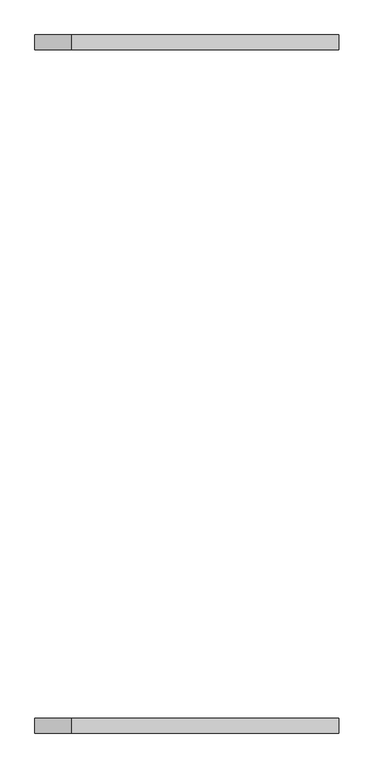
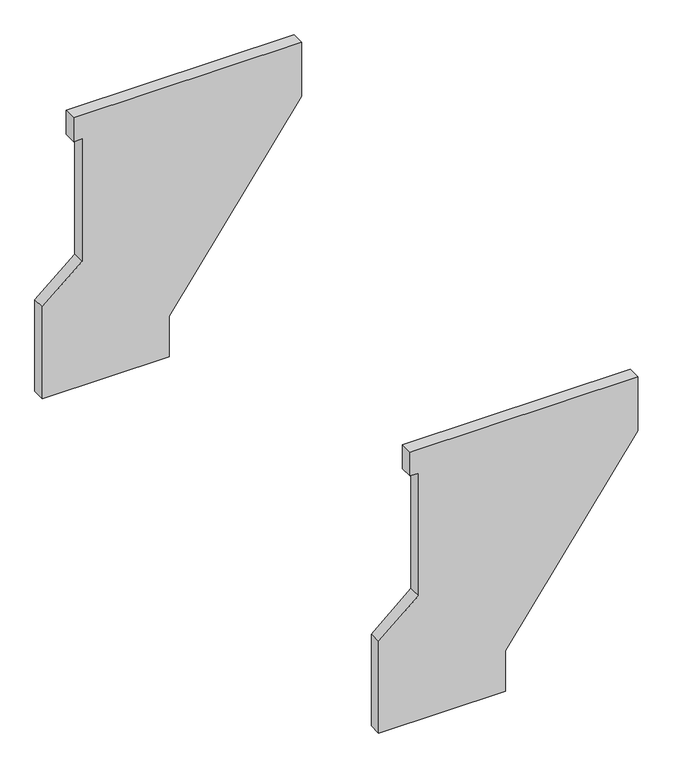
"""IFC4 building model written with IfcOpenShell, lengths in millimetres: proxy geometry, 날개벽 2 : 날개벽 2."""

from ifc_helpers import new_model, si_unit, frame, origin, place, context, project, spatial, polyline, outline, extrude, source, transform, mapped, element, save


def generic_models_ce1fa7ab(model_context):
    return source(origin(), model_context, "Body", "SweptSolid", [
        extrude(outline(polyline([(15030.0, 147119.633441), (15030.0, 139119.633441), (14150.0, 139119.633441), (14150.0, 139419.633441), (9600.0, 139419.633441), (8400.0, 138019.633441), (5000.0, 138019.633441), (5000.0, 142469.633441), (6500.0, 142469.633441), (13030.0, 147119.633441), (15030.0, 147119.633441)])), frame((0.0, 10448.8136521, 0.0), z_axis=(0.0, 1.0, 0.0), x_axis=(0.0, 0.0, 1.0)), (0.0, 0.0, 1.0), 450.0),
        extrude(outline(polyline([(8400.0, 138019.633441), (5000.0, 138019.633441), (5000.0, 142469.633441), (6500.0, 142469.633441), (13030.0, 147119.633441), (15030.0, 147119.633441), (15030.0, 139119.633441), (14150.0, 139119.633441), (14150.0, 139419.633441), (9600.0, 139419.633441), (8400.0, 138019.633441)])), frame((0.0, -10001.1863479, 0.0), z_axis=(0.0, 1.0, 0.0), x_axis=(0.0, 0.0, 1.0)), (0.0, 0.0, 1.0), 450.0),
    ])


if __name__ == "__main__":
    model = new_model("IFC4")
    model_context = context("Model", 3, world=origin())
    ifc_project = project(units=[si_unit("LENGTHUNIT", "METRE", prefix="MILLI")], contexts=[model_context])
    site = spatial("IfcSite", under=ifc_project)
    building = spatial("IfcBuilding", under=site)
    placement = place(None, origin())
    generic_models_shape = generic_models_ce1fa7ab(model_context)
    element("IfcBuildingElementProxy", 1, Name="날개벽 2 : 날개벽 2", ObjectType="날개벽 2 : 날개벽 2", at=placement, inside=building, context=model_context, shape_type="MappedRepresentation", body=[
        mapped(generic_models_shape, transform((0.0, 0.0, 0.0), x_axis=(1.0, 0.0, 0.0), y_axis=(0.0, 1.0, 0.0), z_axis=(0.0, 0.0, 1.0))),
    ])
    save(model, "model.ifc")
